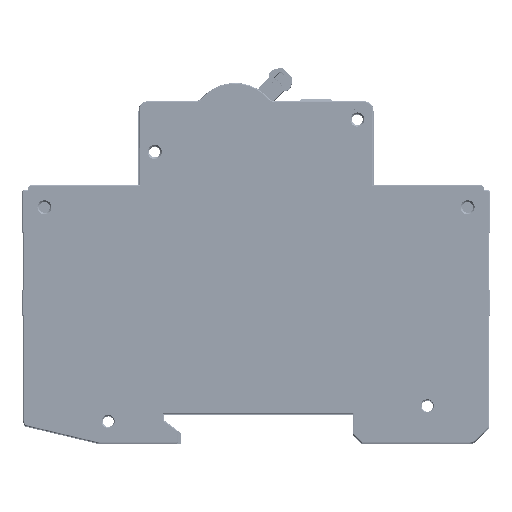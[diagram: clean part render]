
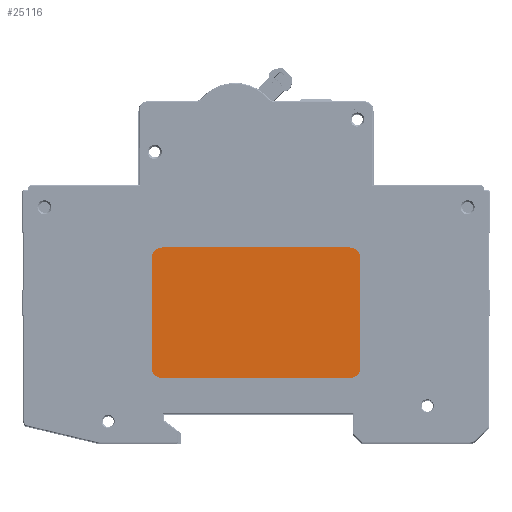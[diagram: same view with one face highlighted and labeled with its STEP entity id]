
A CAD part, top view. The second image highlights one B-rep face of the part: STEP entity #25116.
In plain terms, the highlighted planar face has unit normal (0, 0, 1).
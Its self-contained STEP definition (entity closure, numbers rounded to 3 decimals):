
#367 = VERTEX_POINT ( 'NONE', #14594 ) ;
#1287 = LINE ( 'NONE', #35801, #28712 ) ;
#1701 = DIRECTION ( 'NONE',  ( 1., 0., 0. ) ) ;
#2295 = CARTESIAN_POINT ( 'NONE',  ( 20.5, 14.5, -2.2 ) ) ;
#3133 = LINE ( 'NONE', #8441, #64369 ) ;
#3438 = VERTEX_POINT ( 'NONE', #54490 ) ;
#5374 = CARTESIAN_POINT ( 'NONE',  ( 22.5, 37.5, -2.2 ) ) ;
#8441 = CARTESIAN_POINT ( 'NONE',  ( 22.5, 12.5, -2.2 ) ) ;
#9777 = CARTESIAN_POINT ( 'NONE',  ( 58.5, 35.5, -2.2 ) ) ;
#10311 = DIRECTION ( 'NONE',  ( 0., 0., 1. ) ) ;
#10515 = VERTEX_POINT ( 'NONE', #40157 ) ;
#11059 = EDGE_CURVE ( 'NONE', #53335, #57386, #56557, .T. ) ;
#11377 = DIRECTION ( 'NONE',  ( 0., 0., 1. ) ) ;
#11397 = CIRCLE ( 'NONE', #27597, 2. ) ;
#11447 = VERTEX_POINT ( 'NONE', #55110 ) ;
#12463 = AXIS2_PLACEMENT_3D ( 'NONE', #31938, #42740, #26542 ) ;
#12545 = ORIENTED_EDGE ( 'NONE', *, *, #32587, .T. ) ;
#14594 = CARTESIAN_POINT ( 'NONE',  ( 20.5, 35.5, -2.2 ) ) ;
#15068 = DIRECTION ( 'NONE',  ( 1., 0., 0. ) ) ;
#15292 = DIRECTION ( 'NONE',  ( 0., 0., 1. ) ) ;
#15357 = EDGE_CURVE ( 'NONE', #367, #55600, #59969, .T. ) ;
#15783 = CARTESIAN_POINT ( 'NONE',  ( 58.5, 12.5, -2.2 ) ) ;
#16487 = CARTESIAN_POINT ( 'NONE',  ( 58.5, 37.5, -2.2 ) ) ;
#16721 = EDGE_CURVE ( 'NONE', #55600, #3438, #11397, .T. ) ;
#19711 = VERTEX_POINT ( 'NONE', #15783 ) ;
#23971 = AXIS2_PLACEMENT_3D ( 'NONE', #42933, #11377, #1701 ) ;
#24373 = ORIENTED_EDGE ( 'NONE', *, *, #15357, .T. ) ;
#24386 = VECTOR ( 'NONE', #26557, 1000. ) ;
#24600 = EDGE_CURVE ( 'NONE', #57386, #10515, #55032, .T. ) ;
#25116 = ADVANCED_FACE ( 'NONE', ( #61383 ), #30326, .F. ) ;
#26314 = ORIENTED_EDGE ( 'NONE', *, *, #16721, .T. ) ;
#26542 = DIRECTION ( 'NONE',  ( 1., 0., 0. ) ) ;
#26557 = DIRECTION ( 'NONE',  ( -1., 0., 0. ) ) ;
#27451 = EDGE_CURVE ( 'NONE', #10515, #367, #46349, .T. ) ;
#27597 = AXIS2_PLACEMENT_3D ( 'NONE', #36299, #15292, #15068 ) ;
#27993 = CARTESIAN_POINT ( 'NONE',  ( 20.5, 35.5, -2.2 ) ) ;
#28712 = VECTOR ( 'NONE', #46372, 1000. ) ;
#30179 = VECTOR ( 'NONE', #64720, 1000. ) ;
#30326 = PLANE ( 'NONE',  #52781 ) ;
#31938 = CARTESIAN_POINT ( 'NONE',  ( 58.5, 14.5, -2.2 ) ) ;
#32587 = EDGE_CURVE ( 'NONE', #11447, #53335, #1287, .T. ) ;
#35319 = DIRECTION ( 'NONE',  ( 0., 0., -1. ) ) ;
#35801 = CARTESIAN_POINT ( 'NONE',  ( 60.5, 35.5, -2.2 ) ) ;
#36299 = CARTESIAN_POINT ( 'NONE',  ( 22.5, 14.5, -2.2 ) ) ;
#39424 = CARTESIAN_POINT ( 'NONE',  ( 58.5, 35.5, -2.2 ) ) ;
#40157 = CARTESIAN_POINT ( 'NONE',  ( 22.5, 37.5, -2.2 ) ) ;
#40962 = EDGE_LOOP ( 'NONE', ( #66354, #62607, #45506, #24373, #26314, #62692, #58192, #12545 ) ) ;
#42740 = DIRECTION ( 'NONE',  ( 0., 0., 1. ) ) ;
#42933 = CARTESIAN_POINT ( 'NONE',  ( 22.5, 35.5, -2.2 ) ) ;
#43220 = CIRCLE ( 'NONE', #12463, 2. ) ;
#44196 = AXIS2_PLACEMENT_3D ( 'NONE', #39424, #10311, #46388 ) ;
#45506 = ORIENTED_EDGE ( 'NONE', *, *, #27451, .T. ) ;
#45882 = DIRECTION ( 'NONE',  ( -1., 0., 0. ) ) ;
#46349 = CIRCLE ( 'NONE', #23971, 2. ) ;
#46372 = DIRECTION ( 'NONE',  ( 0., 1., 0. ) ) ;
#46388 = DIRECTION ( 'NONE',  ( -1., 0., 0. ) ) ;
#51537 = CARTESIAN_POINT ( 'NONE',  ( 60.5, 35.5, -2.2 ) ) ;
#52781 = AXIS2_PLACEMENT_3D ( 'NONE', #9777, #35319, #45882 ) ;
#53335 = VERTEX_POINT ( 'NONE', #51537 ) ;
#54490 = CARTESIAN_POINT ( 'NONE',  ( 22.5, 12.5, -2.2 ) ) ;
#55032 = LINE ( 'NONE', #5374, #24386 ) ;
#55110 = CARTESIAN_POINT ( 'NONE',  ( 60.5, 14.5, -2.2 ) ) ;
#55600 = VERTEX_POINT ( 'NONE', #2295 ) ;
#56557 = CIRCLE ( 'NONE', #44196, 2. ) ;
#57386 = VERTEX_POINT ( 'NONE', #16487 ) ;
#58192 = ORIENTED_EDGE ( 'NONE', *, *, #63789, .T. ) ;
#59969 = LINE ( 'NONE', #27993, #30179 ) ;
#60056 = EDGE_CURVE ( 'NONE', #3438, #19711, #3133, .T. ) ;
#60505 = DIRECTION ( 'NONE',  ( 1., 0., 0. ) ) ;
#61383 = FACE_OUTER_BOUND ( 'NONE', #40962, .T. ) ;
#62607 = ORIENTED_EDGE ( 'NONE', *, *, #24600, .T. ) ;
#62692 = ORIENTED_EDGE ( 'NONE', *, *, #60056, .T. ) ;
#63789 = EDGE_CURVE ( 'NONE', #19711, #11447, #43220, .T. ) ;
#64369 = VECTOR ( 'NONE', #60505, 1000. ) ;
#64720 = DIRECTION ( 'NONE',  ( 0., -1., 0. ) ) ;
#66354 = ORIENTED_EDGE ( 'NONE', *, *, #11059, .T. ) ;
